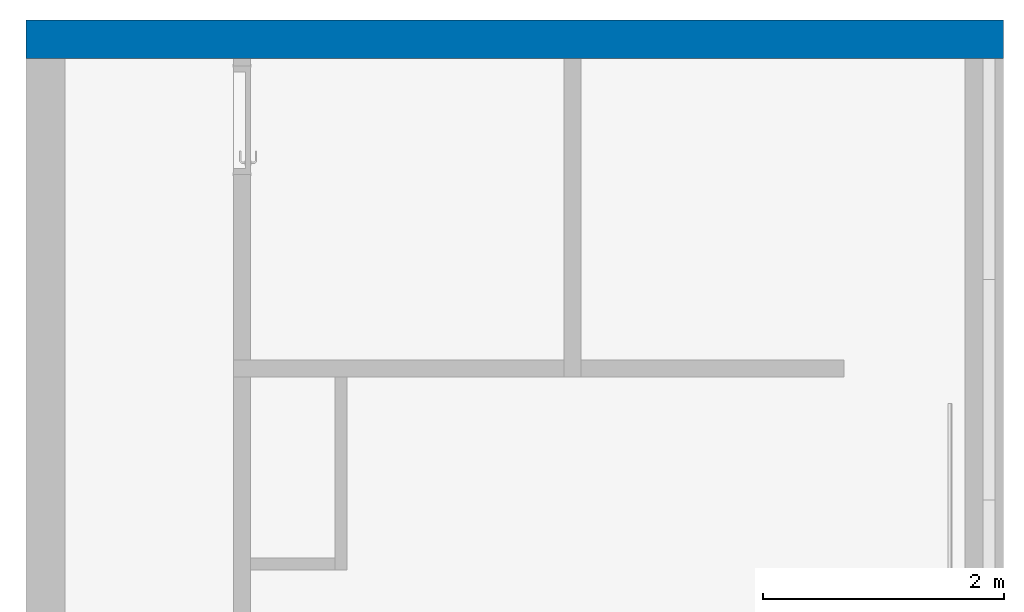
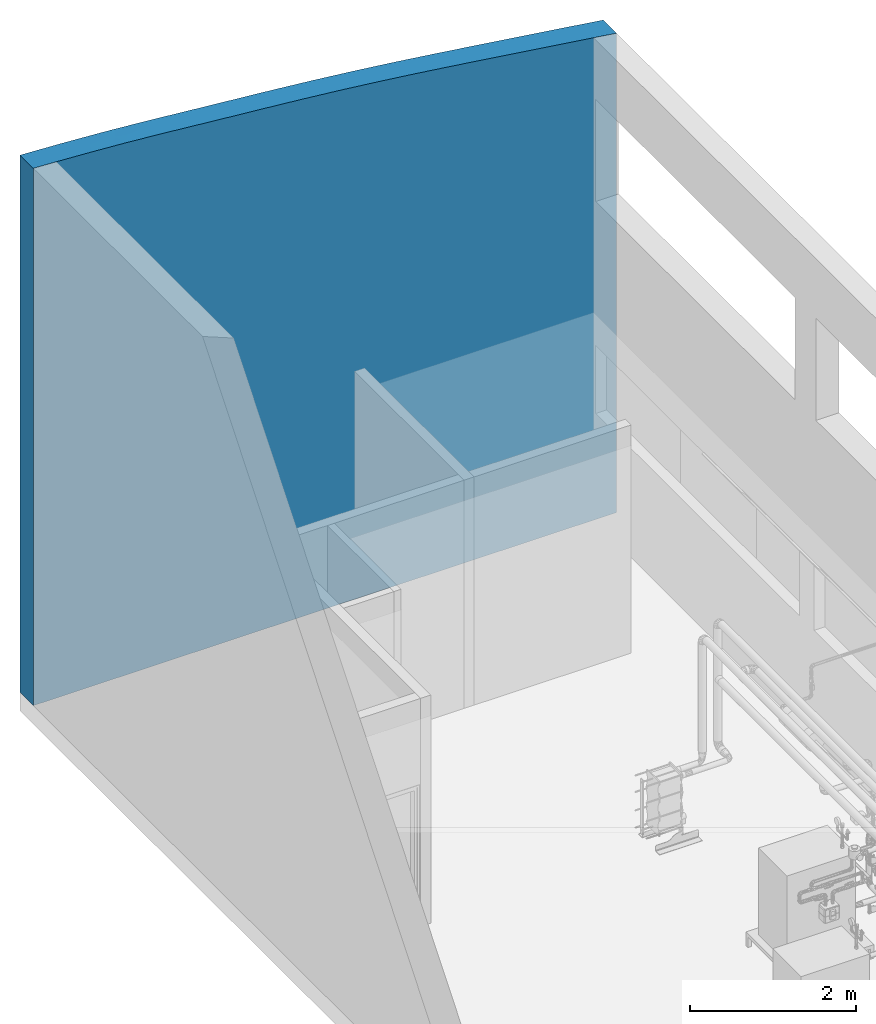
# One storey, part 6 of 43: 1 wall.
"""IFC2X3 building model written with IfcOpenShell, lengths in millimetres."""

from ifc_helpers import new_model, entity, si_unit, converted_unit, derived_unit, direction, frame, origin, place, context, subcontext, project, spatial, faceted_brep, material, layer, layer_set, type_object, element, save


model = new_model("IFC2X3")

# Units and contexts
model_context = context("Model", 3, precision=0.01, world=origin(), true_north=direction((6.123031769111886e-17, 1.0)))
body_context = subcontext(model_context, "Body", "Model", "MODEL_VIEW")
ifc_project = project(units=[si_unit("LENGTHUNIT", "METRE", prefix="MILLI"), si_unit("AREAUNIT", "SQUARE_METRE"), si_unit("VOLUMEUNIT", "CUBIC_METRE"), converted_unit("PLANEANGLEUNIT", "DEGREE", entity("IfcRatioMeasure", 0.017453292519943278), si_unit("PLANEANGLEUNIT", "RADIAN"), dimensions=[0, 0, 0, 0, 0, 0, 0]), si_unit("MASSUNIT", "GRAM", prefix="KILO"), derived_unit("MASSDENSITYUNIT", [(si_unit("MASSUNIT", "GRAM", prefix="KILO"), 1), (si_unit("LENGTHUNIT", "METRE"), -3)]), derived_unit("MOMENTOFINERTIAUNIT", [(si_unit("LENGTHUNIT", "METRE"), 4)]), si_unit("TIMEUNIT", "SECOND"), si_unit("FREQUENCYUNIT", "HERTZ"), si_unit("THERMODYNAMICTEMPERATUREUNIT", "DEGREE_CELSIUS"), derived_unit("THERMALTRANSMITTANCEUNIT", [(si_unit("MASSUNIT", "GRAM", prefix="KILO"), 1), (si_unit("THERMODYNAMICTEMPERATUREUNIT", "KELVIN"), -1), (si_unit("TIMEUNIT", "SECOND"), -3)]), derived_unit("VOLUMETRICFLOWRATEUNIT", [(si_unit("LENGTHUNIT", "METRE"), 3), (si_unit("TIMEUNIT", "SECOND"), -1)]), derived_unit("MASSFLOWRATEUNIT", [(si_unit("MASSUNIT", "GRAM", prefix="KILO"), 1), (si_unit("TIMEUNIT", "SECOND"), -1)]), derived_unit("ROTATIONALFREQUENCYUNIT", [(si_unit("TIMEUNIT", "SECOND"), -1)]), si_unit("ELECTRICCURRENTUNIT", "AMPERE"), si_unit("ELECTRICVOLTAGEUNIT", "VOLT"), si_unit("POWERUNIT", "WATT"), si_unit("FORCEUNIT", "NEWTON", prefix="KILO"), si_unit("ILLUMINANCEUNIT", "LUX"), si_unit("LUMINOUSFLUXUNIT", "LUMEN"), si_unit("LUMINOUSINTENSITYUNIT", "CANDELA"), derived_unit("USERDEFINED", [(si_unit("MASSUNIT", "GRAM", prefix="KILO"), -1), (si_unit("LENGTHUNIT", "METRE"), -2), (si_unit("TIMEUNIT", "SECOND"), 3), (si_unit("LUMINOUSFLUXUNIT", "LUMEN"), 1)]), derived_unit("SOUNDPOWERUNIT", [(si_unit("MASSUNIT", "GRAM", prefix="KILO"), 1), (si_unit("LENGTHUNIT", "METRE"), 2), (si_unit("TIMEUNIT", "SECOND"), -3)]), derived_unit("SOUNDPRESSUREUNIT", [(si_unit("MASSUNIT", "GRAM", prefix="KILO"), 1), (si_unit("LENGTHUNIT", "METRE"), -1), (si_unit("TIMEUNIT", "SECOND"), -2)]), derived_unit("LINEARVELOCITYUNIT", [(si_unit("LENGTHUNIT", "METRE"), 1), (si_unit("TIMEUNIT", "SECOND"), -1)]), si_unit("PRESSUREUNIT", "PASCAL"), derived_unit("USERDEFINED", [(si_unit("LENGTHUNIT", "METRE"), -2), (si_unit("MASSUNIT", "GRAM", prefix="KILO"), 1), (si_unit("TIMEUNIT", "SECOND"), -2)]), derived_unit("LINEARFORCEUNIT", [(si_unit("MASSUNIT", "GRAM", prefix="KILO"), 1), (si_unit("LENGTHUNIT", "METRE"), 1), (si_unit("TIMEUNIT", "SECOND"), -2), (si_unit("LENGTHUNIT", "METRE"), -1)]), derived_unit("PLANARFORCEUNIT", [(si_unit("MASSUNIT", "GRAM", prefix="KILO"), 1), (si_unit("LENGTHUNIT", "METRE"), 1), (si_unit("TIMEUNIT", "SECOND"), -2), (si_unit("LENGTHUNIT", "METRE"), -2)])], contexts=[model_context])

# Site, building, storey
site_placement = place(None, origin())
site = spatial("IfcSite", under=ifc_project, at=site_placement, Name="Default", CompositionType="ELEMENT")
building_placement = place(site_placement, origin())
building = spatial("IfcBuilding", under=site, at=building_placement, CompositionType="ELEMENT")
storey_placement = place(building_placement, frame((0.0, 0.0, 270.0)))
storey = spatial("IfcBuildingStorey", under=building, at=storey_placement, Name="Niveau 0", CompositionType="ELEMENT", Elevation=270.0)

# Wall
ifc_material = material(Name="Plaque de mur de gypse")
ifc_layer = layer(ifc_material, 320.0)
ifc_layer_set = layer_set([ifc_layer], Name="Mur de base:Générique - 320 mm")
wall_type = type_object("IfcWallType", Name="Mur de base:Générique - 320 mm", PredefinedType="STANDARD", material=ifc_layer_set)
wall_placement = place(storey_placement, frame((0.0, -160.0, 0.0), z_axis=(0.0, 0.0, 1.0), x_axis=(-1.0, 0.0, 0.0)))
element("IfcWall", 1, at=wall_placement, inside=storey, type_object=wall_type, Name="Mur de base:Générique - 320 mm", ObjectType="Mur de base:Générique - 320 mm", context=body_context, shape_type="Brep", body=[
    faceted_brep([(0.0, -160.0, 7038.839652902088), (0.0, -160.0, 0.0), (8100.0, -160.0, 0.0), (8100.0, -160.0, 7890.860457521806), (7809.323025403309, -160.0, 7875.9535602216), (7518.646050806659, -160.0, 7861.046662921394), (7228.253092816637, -160.0, 7842.644175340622), (6937.860134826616, -160.0, 7824.24168775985), (6792.798940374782, -160.0, 7812.830274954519), (6647.737745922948, -160.0, 7801.418862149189), (6502.676551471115, -160.0, 7790.007449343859), (6357.615357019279, -160.0, 7778.596036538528), (6212.728689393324, -160.0, 7765.381829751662), (6067.842021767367, -160.0, 7752.167622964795), (5922.955354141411, -160.0, 7738.9534161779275), (5778.068686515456, -160.0, 7725.739209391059), (5633.165819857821, -160.0, 7712.7439534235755), (5488.2629532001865, -160.0, 7699.74869745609), (5343.3600865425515, -160.0, 7686.753441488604), (5198.457219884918, -160.0, 7673.758185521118), (5125.998089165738, -160.0, 7667.275198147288), (5053.5389584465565, -160.0, 7660.7922107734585), (4908.620697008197, -160.0, 7647.826236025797), (4763.702435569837, -160.0, 7634.860261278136), (4618.784174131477, -160.0, 7621.894286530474), (4546.379571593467, -160.0, 7614.850073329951), (4473.974969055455, -160.0, 7607.805860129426), (4329.165763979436, -160.0, 7593.717433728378), (4184.356558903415, -160.0, 7579.629007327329), (4039.547353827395, -160.0, 7565.54058092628), (3894.8974343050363, -160.0, 7549.862947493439), (3750.247514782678, -160.0, 7534.185314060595), (3605.597595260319, -160.0, 7518.507680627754), (3460.947675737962, -160.0, 7502.830047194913), (3316.531469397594, -160.0, 7485.542851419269), (3172.115263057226, -160.0, 7468.255655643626), (3027.699056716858, -160.0, 7450.968459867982), (2883.2828503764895, -160.0, 7433.681264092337), (2738.9902881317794, -160.0, 7414.847728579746), (2594.697725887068, -160.0, 7396.0141930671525), (2450.405163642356, -160.0, 7377.180657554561), (2306.112601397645, -160.0, 7358.347122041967), (2017.7058956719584, -160.0, 7319.131367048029), (1729.29918994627, -160.0, 7279.915612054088), (1441.0873245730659, -160.0, 7240.038030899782), (1152.8754591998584, -160.0, 7200.160449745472), (864.6572523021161, -160.0, 7159.931386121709), (576.4390454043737, -160.0, 7119.702322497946), (7780.0, 160.0, 0.0), (6380.0, 160.0, 0.0), (6240.0, 160.0, 0.0), (3640.0, 160.0, 0.0), (3500.0, 160.0, 0.0), (320.0, 160.0, 0.0), (0.0, 160.0, 0.0), (0.0, 160.0, 7038.839652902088), (159.58053651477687, 160.0, 7061.25573925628), (320.0, 160.0, 7083.767972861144), (815.409531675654, 160.0, 7153.118773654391), (1062.7123182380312, 160.0, 7187.554636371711), (1310.0151048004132, 160.0, 7221.990499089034), (1557.0395085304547, 160.0, 7256.08587965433), (1804.0639122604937, 160.0, 7290.181260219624), (2052.740087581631, 160.0, 7323.949420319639), (2301.41626290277, 160.0, 7357.717580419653), (2426.589961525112, 160.0, 7374.137972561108), (2551.763660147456, 160.0, 7390.558364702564), (2676.9373587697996, 160.0, 7406.978756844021), (2802.111057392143, 160.0, 7423.399148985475), (2924.846782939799, 160.0, 7438.40683012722), (3047.5825084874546, 160.0, 7453.414511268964), (3170.3182340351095, 160.0, 7468.422192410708), (3293.053959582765, 160.0, 7483.429873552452), (3417.290469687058, 160.0, 7497.394862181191), (3541.52697979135, 160.0, 7511.35985080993), (3665.763489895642, 160.0, 7525.324839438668), (3790.0, 160.0, 7539.289828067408), (3859.926723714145, 160.0, 7546.767749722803), (3930.0, 160.0, 7554.165939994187), (4050.343784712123, 160.0, 7566.231950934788), (4170.687569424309, 160.0, 7578.297961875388), (4291.031354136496, 160.0, 7590.363972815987), (4411.375138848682, 160.0, 7602.429983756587), (4531.176925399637, 160.0, 7613.444544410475), (4650.978711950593, 160.0, 7624.459105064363), (4770.780498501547, 160.0, 7635.473665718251), (4890.582285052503, 160.0, 7646.48822637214), (5010.777822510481, 160.0, 7657.13370730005), (5130.9733599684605, 160.0, 7667.779188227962), (5251.16889742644, 160.0, 7678.424669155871), (5371.364434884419, 160.0, 7689.070150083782), (5491.758462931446, 160.0, 7699.962571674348), (5612.152490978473, 160.0, 7710.854993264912), (5732.546519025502, 160.0, 7721.747414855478), (5852.940547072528, 160.0, 7732.639836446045), (5972.93609656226, 160.0, 7743.592049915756), (6092.93164605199, 160.0, 7754.54426338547), (6212.9271955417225, 160.0, 7765.496476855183), (6332.922745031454, 160.0, 7776.448690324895), (6574.308802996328, 160.0, 7795.931967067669), (6815.694860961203, 160.0, 7815.415243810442), (7056.738493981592, 160.0, 7831.701074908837), (7297.782127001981, 160.0, 7847.9869060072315), (7538.891063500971, 160.0, 7861.5952953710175), (7780.0, 160.0, 7875.203684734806), (7940.548154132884, 160.0, 7883.2738986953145), (8100.0, 160.0, 7890.860457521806), (8100.0, 160.0, 0.0), (8100.0, -17.07841440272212, 7890.860457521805), (0.0, -17.078424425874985, 7038.839652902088), (7859.289969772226, 1.9351379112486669, 7879.245589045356), (6023.6445641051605, 8.645372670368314, 7748.487814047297), (5908.95094511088, 11.566579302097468, 7737.834095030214), (7626.829298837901, -8.219048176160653, 7867.068065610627), (6148.850607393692, 5.763726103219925, 7760.006147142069), (6280.848975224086, -8.53131791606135, 7771.871642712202), (6702.61143194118, 12.7530926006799, 7806.875219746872), (6862.555434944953, -5.462095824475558, 7818.849312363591), (5428.55972165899, 4.030586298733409, 7694.159851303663), (5580.723612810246, -5.9996576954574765, 7707.794269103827), (3546.7910189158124, -20.318653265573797, 7512.542664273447), (3642.5754877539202, -3.2454499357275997, 7523.213184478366), (5332.660916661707, 7.14832408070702, 7685.634489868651), (5797.426074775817, 10.298295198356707, 7727.518024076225), (3825.0004563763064, -22.334926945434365, 7543.0446429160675), (7410.993951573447, 2.398734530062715, 7854.814324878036), (7217.296429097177, 7.891344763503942, 7842.954275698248), (5160.731390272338, -0.9400552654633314, 7670.425317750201), (6554.277251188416, -11.84223424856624, 7795.123383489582), (4625.187529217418, 3.2873213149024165, 7622.484021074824), (4111.5582875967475, -8.971707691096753, 7572.89112925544), (4026.5136461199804, 2.5542729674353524, 7564.199448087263), (5036.697242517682, 3.956861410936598, 7659.462815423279), (4948.600678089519, 7.436190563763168, 7651.652734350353), (4709.407024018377, 5.989638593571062, 7630.186871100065), (2348.911052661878, 0.7663410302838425, 7364.075107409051), (2189.106810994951, -1.8562679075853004, 7342.608177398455), (5684.768724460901, -7.462404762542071, 7717.214084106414), (2930.8466400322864, -8.752093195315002, 7439.644277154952), (2822.16894776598, -12.28451473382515, 7425.95182057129), (2016.7576742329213, 2.976224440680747, 7319.245256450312), (398.50719794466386, -10.826083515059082, 7094.776376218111), (730.1753814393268, -7.256862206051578, 7141.20875685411), (1193.8724169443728, 7.959301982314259, 7205.860978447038), (3909.6051877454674, 1.452438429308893, 7552.0225495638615), (1461.1422891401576, 9.604519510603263, 7242.929483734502), (2647.2863592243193, 13.09481044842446, 7403.457162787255), (3731.958584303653, 16.461500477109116, 7533.010725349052), (3445.3566076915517, 2.367358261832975, 7501.050931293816), (3253.3206755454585, -16.884174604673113, 7478.7615247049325), (3120.3644225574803, -2.888861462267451, 7462.911190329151), (3356.2784983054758, 15.198152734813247, 7490.797692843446), (2508.987468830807, 6.6506729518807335, 7385.336351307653), (1689.8591795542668, 11.489348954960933, 7274.491328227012), (4316.472014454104, 2.50443481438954, 7593.263659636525), (4231.8181753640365, 8.43710825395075, 7584.944287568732), (6413.66892429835, 19.218718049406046, 7783.41288469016), (7034.288999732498, -16.435208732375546, 7830.924936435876), (5246.396430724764, -28.338615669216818, 7677.995686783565), (4829.826115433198, -6.987297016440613, 7641.055206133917), (3027.6781915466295, 9.228081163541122, 7451.632797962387), (4419.4131388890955, -17.696452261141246, 7603.198517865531), (4510.563801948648, -5.393301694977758, 7611.830308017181)], [[[0, 1, 2, 3, 4, 5, 6, 7, 8, 9, 10, 11, 12, 13, 14, 15, 16, 17, 18, 19, 20, 21, 22, 23, 24, 25, 26, 27, 28, 29, 30, 31, 32, 33, 34, 35, 36, 37, 38, 39, 40, 41, 42, 43, 44, 45, 46, 47]], [[48, 49, 50, 51, 52, 53, 54, 55, 56, 57, 58, 59, 60, 61, 62, 63, 64, 65, 66, 67, 68, 69, 70, 71, 72, 73, 74, 75, 76, 77, 78, 79, 80, 81, 82, 83, 84, 85, 86, 87, 88, 89, 90, 91, 92, 93, 94, 95, 96, 97, 98, 99, 100, 101, 102, 103, 104, 105, 106, 107]], [[1, 54, 53, 52, 51, 50, 49, 48, 107, 2]], [[3, 2, 107, 106, 108]], [[55, 54, 1, 0, 109]], [[3, 108, 110]], [[111, 112, 14]], [[113, 104, 103]], [[114, 111, 13]], [[115, 97, 114]], [[110, 113, 4]], [[116, 117, 100]], [[114, 96, 111]], [[118, 119, 91]], [[120, 32, 121]], [[18, 118, 122]], [[123, 112, 94]], [[31, 30, 124]], [[125, 126, 6]], [[111, 95, 112]], [[127, 20, 19]], [[97, 115, 98]], [[128, 9, 116]], [[123, 15, 14]], [[102, 126, 125]], [[115, 12, 11]], [[108, 105, 110]], [[24, 129, 25]], [[29, 130, 131]], [[112, 123, 14]], [[21, 132, 133]], [[56, 55, 109]], [[108, 106, 105]], [[130, 79, 131]], [[94, 112, 95]], [[134, 129, 24]], [[111, 96, 95]], [[24, 23, 134]], [[94, 93, 123]], [[135, 64, 136]], [[92, 119, 137]], [[138, 139, 37]], [[90, 122, 118]], [[43, 42, 140]], [[134, 85, 84]], [[0, 47, 141]], [[125, 103, 102]], [[142, 143, 59]], [[144, 124, 30]], [[110, 4, 3]], [[141, 142, 57]], [[145, 60, 143]], [[146, 38, 139]], [[105, 104, 110]], [[141, 47, 142]], [[124, 77, 76]], [[76, 147, 124]], [[144, 77, 124]], [[74, 73, 148]], [[149, 71, 150]], [[121, 74, 120]], [[151, 73, 72]], [[68, 139, 69]], [[113, 103, 125]], [[146, 66, 152]], [[136, 140, 42]], [[153, 145, 44]], [[135, 152, 65]], [[111, 14, 13]], [[59, 58, 142]], [[12, 114, 13]], [[56, 109, 141]], [[79, 130, 80]], [[137, 15, 123]], [[27, 154, 155]], [[137, 123, 93]], [[119, 16, 137]], [[8, 116, 9]], [[115, 156, 98]], [[7, 117, 8]], [[100, 99, 116]], [[128, 116, 99]], [[125, 6, 5]], [[92, 137, 93]], [[15, 137, 16]], [[157, 6, 126]], [[113, 125, 5]], [[90, 118, 91]], [[97, 96, 114]], [[17, 16, 119]], [[119, 92, 91]], [[4, 113, 5]], [[113, 110, 104]], [[124, 147, 31]], [[118, 18, 17]], [[121, 31, 147]], [[76, 75, 147]], [[121, 147, 75]], [[158, 18, 122]], [[119, 118, 17]], [[85, 134, 159]], [[86, 85, 159]], [[102, 101, 126]], [[117, 101, 100]], [[127, 19, 158]], [[101, 117, 157]], [[90, 89, 122]], [[89, 127, 158]], [[8, 117, 116]], [[117, 7, 157]], [[6, 157, 7]], [[101, 157, 126]], [[156, 99, 98]], [[156, 10, 128]], [[74, 121, 75]], [[10, 9, 128]], [[31, 121, 32]], [[34, 151, 149]], [[33, 32, 120]], [[73, 151, 148]], [[136, 41, 135]], [[151, 33, 148]], [[63, 136, 64]], [[23, 22, 159]], [[133, 159, 22]], [[140, 136, 63]], [[42, 41, 136]], [[29, 144, 30]], [[77, 144, 78]], [[29, 28, 130]], [[144, 131, 78]], [[81, 155, 154]], [[80, 155, 81]], [[155, 130, 28]], [[146, 152, 39]], [[152, 135, 40]], [[135, 41, 40]], [[65, 152, 66]], [[65, 64, 135]], [[39, 152, 40]], [[38, 37, 139]], [[139, 67, 146]], [[146, 39, 38]], [[69, 139, 138]], [[134, 84, 129]], [[35, 149, 150]], [[160, 69, 138]], [[37, 36, 138]], [[36, 150, 160]], [[67, 139, 68]], [[67, 66, 146]], [[159, 134, 23]], [[161, 26, 162]], [[82, 161, 162]], [[129, 84, 83]], [[25, 162, 26]], [[162, 129, 83]], [[129, 162, 25]], [[82, 162, 83]], [[154, 82, 81]], [[27, 26, 161]], [[63, 62, 140]], [[140, 62, 153]], [[132, 87, 133]], [[87, 86, 133]], [[159, 133, 86]], [[21, 133, 22]], [[132, 21, 20]], [[88, 87, 132]], [[127, 89, 88]], [[20, 127, 132]], [[132, 127, 88]], [[18, 158, 19]], [[89, 158, 122]], [[130, 155, 80]], [[27, 155, 28]], [[27, 161, 154]], [[82, 154, 161]], [[149, 151, 72]], [[33, 151, 34]], [[70, 150, 71]], [[34, 149, 35]], [[149, 72, 71]], [[160, 150, 70]], [[36, 35, 150]], [[33, 120, 148]], [[74, 148, 120]], [[69, 160, 70]], [[36, 160, 138]], [[78, 131, 79]], [[144, 29, 131]], [[143, 60, 59]], [[142, 47, 46]], [[143, 46, 45]], [[153, 62, 61]], [[44, 43, 153]], [[143, 45, 44]], [[143, 142, 46]], [[57, 142, 58]], [[56, 141, 57]], [[0, 141, 109]], [[153, 61, 145]], [[140, 153, 43]], [[60, 145, 61]], [[143, 44, 145]], [[12, 115, 114]], [[11, 10, 156]], [[11, 156, 115]], [[99, 156, 128]]]),
])

save(model, "model.ifc")
